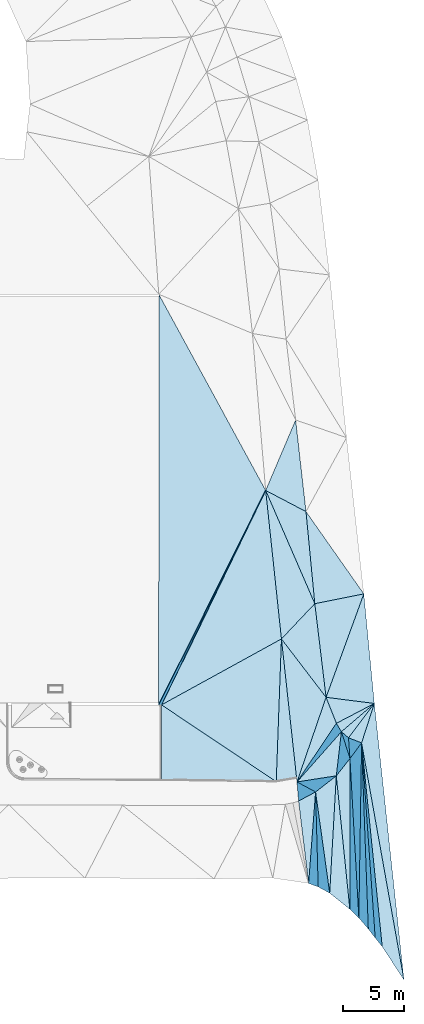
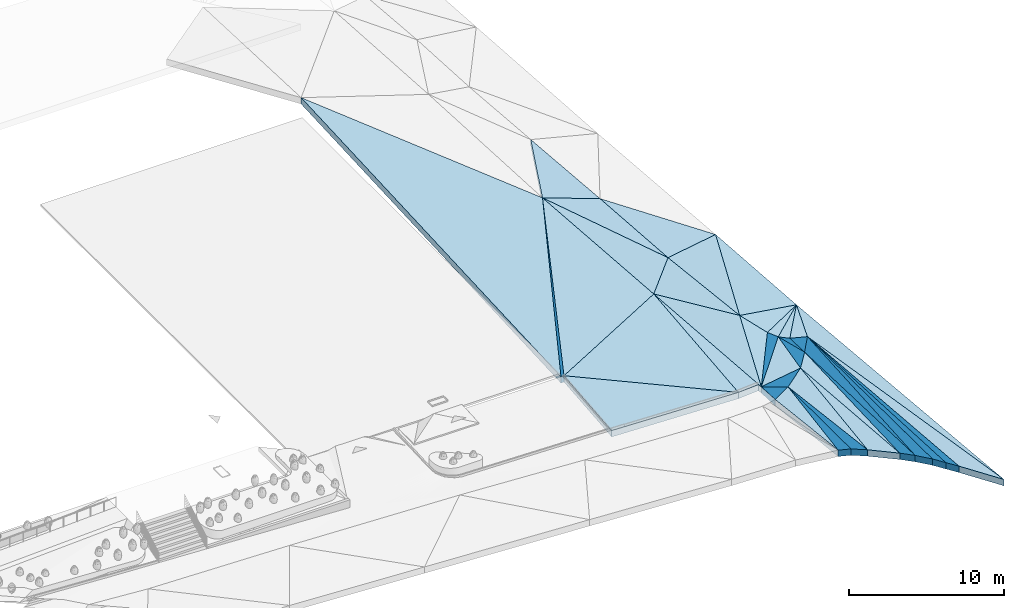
# One storey, part 5 of 23: 39 slabs, 4 elements without a shape of their own.
"""IFC2X3 building model written with IfcOpenShell, lengths in metres."""

from ifc_helpers import new_model, entity, si_unit, converted_unit, direction, frame, origin, place, context, subcontext, project, spatial, polyline, outline, extrude, material, layer, layer_set, type_object, element, aggregate, save


model = new_model("IFC2X3")

# Units and contexts
model_context = context("Model", 3, precision=1e-05, world=origin(), true_north=direction((0.7716245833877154, 0.6360782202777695)))
body_context = subcontext(model_context, "Body", "Model", "MODEL_VIEW")
ifc_project = project(units=[si_unit("LENGTHUNIT", "METRE"), converted_unit("PLANEANGLEUNIT", "DEGREE", entity("IfcPlaneAngleMeasure", 0.017453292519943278), si_unit("PLANEANGLEUNIT", "RADIAN"), dimensions=[0, 0, 0, 0, 0, 0, 0]), si_unit("AREAUNIT", "SQUARE_METRE")], contexts=[model_context])

# Site, building, storey
site_placement = place(None, origin())
site = spatial("IfcSite", under=ifc_project, at=site_placement, Name="Default", CompositionType="ELEMENT")
building_placement = place(site_placement, origin())
building = spatial("IfcBuilding", under=site, at=building_placement, Name="<Building Name>", CompositionType="ELEMENT")
storey_placement = place(building_placement, origin())
storey = spatial("IfcBuildingStorey", under=building, at=storey_placement, Name="00 - HAV", CompositionType="ELEMENT", Elevation=0.0)

# Slabs
slab_1_placement = place(storey_placement, frame((227.93461709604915, 49.93152636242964, 29.770000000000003)))
slab_1 = element("IfcSlab", 1, at=slab_1_placement, inside=storey, Name="Floor:771 Grøntarealer", ObjectType="Floor:771 Grøntarealer", PredefinedType="NOTDEFINED")
ifc_material_1 = material(Name="815 - Terrain, Grøntareal")
ifc_layer_1 = layer(ifc_material_1, 0.02)
ifc_material_2 = material(Name="Site - Soil - Jordlag")
ifc_layer_2 = layer(ifc_material_2, 0.30000000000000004)
ifc_layer_set_1 = layer_set([ifc_layer_1, ifc_layer_2], Name="Floor:771 Grøntarealer")
slab_type_1 = type_object("IfcSlabType", Name="Floor:771 Grøntarealer", PredefinedType="NOTDEFINED")
slab_2_placement = place(slab_1_placement, origin())
slab_2 = element("IfcSlab", 2, at=slab_2_placement, type_object=slab_type_1, material=ifc_layer_set_1, Name="Floor:771 Grøntarealer", ObjectType="Floor:771 Grøntarealer", PredefinedType="NOTDEFINED", context=body_context, shape_type="SweptSolid", body=[
    extrude(outline(polyline([(-2.3785105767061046, 3.5640144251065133), (-1.65907824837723, -3.950565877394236), (2.339792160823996, -3.1595946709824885), (-2.3785105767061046, 3.5640144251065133)])), frame((64.42983927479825, 15.30548511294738, 1.1208509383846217), z_axis=(0.023530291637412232, -0.04298280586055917, 0.9987986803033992), x_axis=(0.9997231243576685, 0.0010116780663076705, -0.023508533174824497)), (0.023508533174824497, -0.042994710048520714, -0.9987986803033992), 0.3200000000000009),
])
slab_3_placement = place(slab_1_placement, origin())
slab_3 = element("IfcSlab", 3, at=slab_3_placement, type_object=slab_type_1, material=ifc_layer_set_1, Name="Floor:771 Grøntarealer", ObjectType="Floor:771 Grøntarealer", PredefinedType="NOTDEFINED", context=body_context, shape_type="SweptSolid", body=[
    extrude(outline(polyline([(-2.4591744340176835, 3.425550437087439), (-1.539434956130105, -4.217840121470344), (1.539434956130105, 4.217840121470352), (-2.4591744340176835, 3.425550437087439)])), frame((65.22987441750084, 7.93411059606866, 0.8433381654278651), z_axis=(0.020571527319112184, -0.028045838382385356, 0.9993949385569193), x_axis=(0.9997883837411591, 0.0005770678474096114, -0.02056343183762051)), (0.02056343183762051, -0.02805177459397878, -0.9993949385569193), 0.3200000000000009),
])
slab_4_placement = place(slab_1_placement, origin())
slab_4 = element("IfcSlab", 4, at=slab_4_placement, type_object=slab_type_1, material=ifc_layer_set_1, Name="Floor:771 Grøntarealer", ObjectType="Floor:771 Grøntarealer", PredefinedType="NOTDEFINED", context=body_context, shape_type="SweptSolid", body=[
    extrude(outline(polyline([(-2.038941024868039, 0.440071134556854), (-1.19808286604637, -1.7074954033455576), (1.9014505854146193, -0.08891813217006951), (-2.038941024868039, 0.440071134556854)])), frame((65.72799522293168, 3.293814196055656, 0.6099952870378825), z_axis=(0.04095912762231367, -0.14543903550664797, 0.9885190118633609), x_axis=(0.9991608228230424, 0.005962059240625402, -0.04052288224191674)), (0.04052288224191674, -0.1455611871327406, -0.9885190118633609), 0.3200000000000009),
])
slab_5_placement = place(slab_1_placement, origin())
slab_5 = element("IfcSlab", 5, at=slab_5_placement, type_object=slab_type_1, material=ifc_layer_set_1, Name="Floor:771 Grøntarealer", ObjectType="Floor:771 Grøntarealer", PredefinedType="NOTDEFINED", context=body_context, shape_type="SweptSolid", body=[
    extrude(outline(polyline([(-2.532293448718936, -4.089188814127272), (1.4107231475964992, -4.598242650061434), (0.550562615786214, 4.345035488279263), (-2.532293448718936, -4.089188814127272)])), frame((66.21924922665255, 7.808497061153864, 0.7838622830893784), z_axis=(0.05483096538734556, -0.040514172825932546, 0.9976733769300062), x_axis=(0.9984956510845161, 0.002224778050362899, -0.05478581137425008)), (0.05478581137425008, -0.0405752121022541, -0.9976733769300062), 0.3200000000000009),
])
slab_6_placement = place(slab_1_placement, origin())
slab_6 = element("IfcSlab", 6, at=slab_6_placement, type_object=slab_type_1, material=ifc_layer_set_1, Name="Floor:771 Grøntarealer", ObjectType="Floor:771 Grøntarealer", PredefinedType="NOTDEFINED", context=body_context, shape_type="SweptSolid", body=[
    extrude(outline(polyline([(-1.705570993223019, -0.5475200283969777), (-1.2956265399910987, -1.2369731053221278), (1.3916455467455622, 1.075486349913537), (-1.705570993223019, -0.5475200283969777)])), frame((66.23633228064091, 2.144643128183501, 0.43819785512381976), z_axis=(0.01354534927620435, -0.09350248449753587, 0.9955269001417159), x_axis=(0.9999082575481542, 0.0012666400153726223, -0.013485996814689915)), (0.013485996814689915, -0.09351106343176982, -0.9955269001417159), 0.3200000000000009),
])
slab_7_placement = place(slab_1_placement, origin())
slab_7 = element("IfcSlab", 7, at=slab_7_placement, type_object=slab_type_1, material=ifc_layer_set_1, Name="Floor:771 Grøntarealer", ObjectType="Floor:771 Grøntarealer", PredefinedType="NOTDEFINED", context=body_context, shape_type="SweptSolid", body=[
    extrude(outline(polyline([(-1.4311817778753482, -1.0809638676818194), (-0.8537363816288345, -1.5773073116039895), (1.2561953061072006, 1.2313735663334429), (-1.4311817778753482, -1.0809638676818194)])), frame((66.37181917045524, 1.9891572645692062, 0.4269696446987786), z_axis=(-0.016174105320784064, -0.059071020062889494, 0.9981227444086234), x_axis=(0.999869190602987, -0.0009555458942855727, 0.016145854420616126)), (-0.016145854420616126, -0.059078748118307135, -0.9981227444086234), 0.3200000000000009),
])
slab_8_placement = place(slab_1_placement, origin())
slab_8 = element("IfcSlab", 8, at=slab_8_placement, type_object=slab_type_1, material=ifc_layer_set_1, Name="Floor:771 Grøntarealer", ObjectType="Floor:771 Grøntarealer", PredefinedType="NOTDEFINED", context=body_context, shape_type="SweptSolid", body=[
    extrude(outline(polyline([(-1.1455949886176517, -1.3690872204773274), (-0.07696781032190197, -1.7834975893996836), (0.9649280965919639, 1.4391492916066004), (-1.1455949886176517, -1.3690872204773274)])), frame((66.66331863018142, 1.7811837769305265, 0.420845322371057), z_axis=(-0.02866712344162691, -0.04968056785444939, 0.9983536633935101), x_axis=(0.9995890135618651, -0.001424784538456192, 0.028631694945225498)), (-0.028631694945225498, -0.049700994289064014, -0.9983536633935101), 0.3200000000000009),
])
aggregate(slab_1, [slab_2, slab_3, slab_4, slab_5, slab_6, slab_7, slab_8])

slab_9_placement = place(storey_placement, frame((272.13534237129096, 46.77280201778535, 29.448733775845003)))
slab_9 = element("IfcSlab", 9, at=slab_9_placement, inside=storey, Name="Floor:761 Asfalt - Kjørearealer", ObjectType="Floor:761 Asfalt - Kjørearealer", PredefinedType="NOTDEFINED")
ifc_material_3 = material(Name="Site - Asphalt - Asfaltbetong")
ifc_layer_3 = layer(ifc_material_3, 0.03)
ifc_material_4 = material(Name="A_Default_Building_Part")
ifc_layer_4 = layer(ifc_material_4, 0.07)
ifc_material_5 = material(Name="Site - Gravel - Stabilitet grus")
ifc_layer_5 = layer(ifc_material_5, 0.2)
ifc_material_6 = material(Name="Site - Gravel - Bunnsikringsgrus")
ifc_layer_6 = layer(ifc_material_6, 0.2)
ifc_layer_set_2 = layer_set([ifc_layer_3, ifc_layer_4, ifc_layer_5, ifc_layer_6], Name="Floor:761 Asfalt - Kjørearealer")
slab_type_2 = type_object("IfcSlabType", Name="Floor:761 Asfalt - Kjørearealer", PredefinedType="NOTDEFINED")
slab_10_placement = place(slab_9_placement, origin())
slab_10 = element("IfcSlab", 10, at=slab_10_placement, type_object=slab_type_2, material=ifc_layer_set_2, Name="Floor:761 Asfalt - Kjørearealer", ObjectType="Floor:761 Asfalt - Kjørearealer", PredefinedType="NOTDEFINED", context=body_context, shape_type="SweptSolid", body=[
    extrude(outline(polyline([(5.541417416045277, -3.3836336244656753), (4.254605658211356, 8.742483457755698), (-4.254605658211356, -8.74248345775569), (5.541417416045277, -3.3836336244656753)])), frame((10.31627251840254, 15.002458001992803, 1.6162662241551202), z_axis=(0.05371837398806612, -0.04948754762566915, 0.9973290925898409), x_axis=(0.998556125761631, 0.0026622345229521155, -0.0536523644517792)), (0.0536523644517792, -0.04955910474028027, -0.9973290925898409), 0.49999999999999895),
])
slab_11_placement = place(slab_9_placement, origin())
slab_11 = element("IfcSlab", 11, at=slab_11_placement, type_object=slab_type_2, material=ifc_layer_set_2, Name="Floor:761 Asfalt - Kjørearealer", ObjectType="Floor:761 Asfalt - Kjørearealer", PredefinedType="NOTDEFINED", context=body_context, shape_type="SweptSolid", body=[
    extrude(outline(polyline([(-0.6138804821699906, 5.855093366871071), (-1.0396966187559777, -5.794652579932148), (0.6262974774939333, -5.5153813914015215), (-0.6138804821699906, 5.855093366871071)])), frame((16.46155184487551, 5.791927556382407, 0.8179055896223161), z_axis=(0.0810062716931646, -0.04829274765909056, 0.9955429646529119), x_axis=(0.9967135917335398, 0.003924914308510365, -0.08091113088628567)), (0.08091113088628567, -0.04845198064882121, -0.9955429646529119), 0.49999999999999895),
])
slab_12_placement = place(slab_9_placement, origin())
slab_12 = element("IfcSlab", 12, at=slab_12_placement, type_object=slab_type_2, material=ifc_layer_set_2, Name="Floor:761 Asfalt - Kjørearealer", ObjectType="Floor:761 Asfalt - Kjørearealer", PredefinedType="NOTDEFINED", context=body_context, shape_type="SweptSolid", body=[
    extrude(outline(polyline([(2.4937809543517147, 7.073185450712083), (-7.301629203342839, 1.7132153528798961), (2.068777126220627, -4.576590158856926), (2.4937809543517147, 7.073185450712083)])), frame((13.359352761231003, 4.566290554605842, 0.9468183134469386), z_axis=(0.05254405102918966, -0.047343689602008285, 0.9974957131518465), x_axis=(0.9986186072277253, 0.0024910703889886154, -0.05248496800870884)), (0.05248496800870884, -0.047409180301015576, -0.9974957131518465), 0.49999999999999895),
])
slab_13_placement = place(slab_9_placement, origin())
slab_13 = element("IfcSlab", 13, at=slab_13_placement, type_object=slab_type_2, material=ifc_layer_set_2, Name="Floor:761 Asfalt - Kjørearealer", ObjectType="Floor:761 Asfalt - Kjørearealer", PredefinedType="NOTDEFINED", context=body_context, shape_type="SweptSolid", body=[
    extrude(outline(polyline([(8.731174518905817, 0.7227002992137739), (0.002450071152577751, 16.762552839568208), (-0.0024500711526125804, -16.762552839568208), (8.731174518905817, 0.7227002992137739)])), frame((5.844953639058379, 23.001874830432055, 2.2312662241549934), z_axis=(0.051069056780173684, -0.04886217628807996, 0.9974990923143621), x_axis=(0.9986951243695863, 0.002498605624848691, -0.05100789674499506)), (0.05100789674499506, -0.048926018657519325, -0.9974990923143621), 0.49999999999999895),
])
slab_14_placement = place(slab_9_placement, origin())
slab_14 = element("IfcSlab", 14, at=slab_14_placement, type_object=slab_type_2, material=ifc_layer_set_2, Name="Floor:761 Asfalt - Kjørearealer", ObjectType="Floor:761 Asfalt - Kjørearealer", PredefinedType="NOTDEFINED", context=body_context, shape_type="SweptSolid", body=[
    extrude(outline(polyline([(4.2708970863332, 8.79045903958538), (-4.45133120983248, -8.700481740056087), (-4.226027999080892, -8.700481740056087), (4.2708970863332, 8.79045903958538)])), frame((10.293837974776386, 14.957481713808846, 1.6152116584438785), z_axis=(0.0, -0.023440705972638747, 0.9997252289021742), x_axis=(1.0, 0.0, 0.0)), (0.0, -0.023440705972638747, -0.9997252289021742), 0.49999999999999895),
])
slab_15_placement = place(slab_9_placement, origin())
slab_15 = element("IfcSlab", 15, at=slab_15_placement, type_object=slab_type_2, material=ifc_layer_set_2, Name="Floor:761 Asfalt - Kjørearealer", ObjectType="Floor:761 Asfalt - Kjørearealer", PredefinedType="NOTDEFINED", context=body_context, shape_type="SweptSolid", body=[
    extrude(outline(polyline([(6.111705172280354, -1.0277648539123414), (-3.2476793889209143, 5.278429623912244), (-3.247679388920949, -0.9019671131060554), (6.111705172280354, -1.0277648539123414)])), frame((9.31482228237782, 1.0112756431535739, 0.8425474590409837), z_axis=(0.020267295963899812, -0.09531120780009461, 0.9952411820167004), x_axis=(0.9997945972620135, 0.0019320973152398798, -0.020174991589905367)), (0.020174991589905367, -0.09533078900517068, -0.9952411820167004), 0.49999999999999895),
])
aggregate(slab_9, [slab_10, slab_11, slab_12, slab_13, slab_14, slab_15])

slab_16_placement = place(storey_placement, frame((215.88810139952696, 30.595880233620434, 28.880000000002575)))
slab_16 = element("IfcSlab", 16, at=slab_16_placement, inside=storey, Name="Floor:761 Asfalt - Kjørearealer", ObjectType="Floor:761 Asfalt - Kjørearealer", PredefinedType="NOTDEFINED")
slab_17_placement = place(slab_16_placement, origin())
slab_17 = element("IfcSlab", 17, at=slab_17_placement, type_object=slab_type_2, material=ifc_layer_set_2, Name="Floor:761 Asfalt - Kjørearealer", ObjectType="Floor:761 Asfalt - Kjørearealer", PredefinedType="NOTDEFINED", context=body_context, shape_type="SweptSolid", body=[
    extrude(outline(polyline([(0.1118790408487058, 7.142153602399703), (-0.8364122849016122, 5.865892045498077), (-0.1118790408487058, -7.142153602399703), (0.1118790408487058, 7.142153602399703)])), frame((78.52121957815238, 12.200004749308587, 0.9149999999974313), z_axis=(-0.05983710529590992, -0.04169285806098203, 0.9973370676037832), x_axis=(0.99820815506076, -0.0024992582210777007, 0.05978488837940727)), (-0.05978488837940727, -0.0417676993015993, -0.9973370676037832), 0.49999999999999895),
])
slab_18_placement = place(slab_16_placement, origin())
slab_18 = element("IfcSlab", 18, at=slab_18_placement, type_object=slab_type_2, material=ifc_layer_set_2, Name="Floor:761 Asfalt - Kjørearealer", ObjectType="Floor:761 Asfalt - Kjørearealer", PredefinedType="NOTDEFINED", context=body_context, shape_type="SweptSolid", body=[
    extrude(outline(polyline([(-0.27483578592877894, 7.594512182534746), (-0.49846271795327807, -6.6897970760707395), (0.2748357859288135, -7.594512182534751), (-0.27483578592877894, 7.594512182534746)])), frame((78.90740236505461, 11.747248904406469, 0.914999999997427), z_axis=(-0.0491060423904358, -0.04188550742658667, 0.9979149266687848), x_axis=(0.9987935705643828, -0.002059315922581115, 0.04906284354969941)), (-0.04906284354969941, -0.04193610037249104, -0.9979149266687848), 0.49999999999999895),
])
slab_19_placement = place(slab_16_placement, origin())
slab_19 = element("IfcSlab", 19, at=slab_19_placement, type_object=slab_type_2, material=ifc_layer_set_2, Name="Floor:761 Asfalt - Kjørearealer", ObjectType="Floor:761 Asfalt - Kjørearealer", PredefinedType="NOTDEFINED", context=body_context, shape_type="SweptSolid", body=[
    extrude(outline(polyline([(-0.5556364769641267, 7.959515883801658), (-0.006518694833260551, -7.229528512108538), (0.5556364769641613, -7.959515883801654), (-0.5556364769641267, 7.959515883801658)])), frame((79.18842397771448, 11.38276042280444, 0.8949999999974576), z_axis=(0.019955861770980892, -0.03943178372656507, 0.9990229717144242), x_axis=(0.9998008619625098, 0.0007870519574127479, -0.019940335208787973)), (0.019940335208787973, -0.03943963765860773, -0.9990229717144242), 0.49999999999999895),
])
slab_20_placement = place(slab_16_placement, origin())
slab_20 = element("IfcSlab", 20, at=slab_20_placement, type_object=slab_type_2, material=ifc_layer_set_2, Name="Floor:761 Asfalt - Kjørearealer", ObjectType="Floor:761 Asfalt - Kjørearealer", PredefinedType="NOTDEFINED", context=body_context, shape_type="SweptSolid", body=[
    extrude(outline(polyline([(-0.8417665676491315, 8.31445602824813), (0.27018767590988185, -7.60452816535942), (0.8417665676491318, -8.31445602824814), (-0.8417665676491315, 8.31445602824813)])), frame((79.4739814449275, 11.028490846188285, 0.8699999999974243), z_axis=(0.040283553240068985, -0.03798908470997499, 0.9984658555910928), x_axis=(0.9991882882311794, 0.0015315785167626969, -0.04025442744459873)), (0.04025442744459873, -0.03801994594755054, -0.9984658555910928), 0.49999999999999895),
])
slab_21_placement = place(slab_16_placement, origin())
slab_21 = element("IfcSlab", 21, at=slab_21_placement, type_object=slab_type_2, material=ifc_layer_set_2, Name="Floor:761 Asfalt - Kjørearealer", ObjectType="Floor:761 Asfalt - Kjørearealer", PredefinedType="NOTDEFINED", context=body_context, shape_type="SweptSolid", body=[
    extrude(outline(polyline([(-1.7328836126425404, 9.673910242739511), (-0.0473842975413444, -6.954802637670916), (1.732883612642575, -9.673910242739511), (-1.7328836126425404, 9.673910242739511)])), frame((80.36235534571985, 9.667823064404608, 0.859999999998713), z_axis=(-0.0628543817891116, -0.04836352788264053, 0.9968501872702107), x_axis=(0.9980227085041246, -0.003045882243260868, 0.06278053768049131)), (-0.06278053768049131, -0.048459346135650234, -0.9968501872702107), 0.49999999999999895),
])
slab_22_placement = place(slab_16_placement, origin())
slab_22 = element("IfcSlab", 22, at=slab_22_placement, type_object=slab_type_2, material=ifc_layer_set_2, Name="Floor:761 Asfalt - Kjørearealer", ObjectType="Floor:761 Asfalt - Kjørearealer", PredefinedType="NOTDEFINED", context=body_context, shape_type="SweptSolid", body=[
    extrude(outline(polyline([(-2.2523064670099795, 8.062998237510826), (1.2098596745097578, -11.285466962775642), (-1.2098596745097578, 11.28546696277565), (-2.2523064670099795, 8.062998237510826)])), frame((80.88308919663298, 11.27641289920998, 0.954999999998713), z_axis=(-0.043330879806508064, -0.04491570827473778, 0.9980506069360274), x_axis=(0.9990607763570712, -0.0019480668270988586, 0.04328706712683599)), (-0.04328706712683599, -0.04495793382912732, -0.9980506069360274), 0.49999999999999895),
])
slab_23_placement = place(slab_16_placement, origin())
slab_23 = element("IfcSlab", 23, at=slab_23_placement, type_object=slab_type_2, material=ifc_layer_set_2, Name="Floor:761 Asfalt - Kjørearealer", ObjectType="Floor:761 Asfalt - Kjørearealer", PredefinedType="NOTDEFINED", context=body_context, shape_type="SweptSolid", body=[
    extrude(outline(polyline([(0.005904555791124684, 6.152626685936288), (-1.1114054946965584, 4.740635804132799), (-0.005904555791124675, -6.152626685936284), (0.005904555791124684, 6.152626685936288)])), frame((77.68040653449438, 11.915121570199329, 0.864999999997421), z_axis=(0.04145578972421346, -0.03982587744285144, 0.9983462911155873), x_axis=(0.9991403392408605, 0.0016524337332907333, -0.0414228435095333)), (0.0414228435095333, -0.03986014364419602, -0.9983462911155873), 0.49999999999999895),
])
slab_24_placement = place(slab_16_placement, origin())
slab_24 = element("IfcSlab", 24, at=slab_24_placement, type_object=slab_type_2, material=ifc_layer_set_2, Name="Floor:761 Asfalt - Kjørearealer", ObjectType="Floor:761 Asfalt - Kjørearealer", PredefinedType="NOTDEFINED", context=body_context, shape_type="SweptSolid", body=[
    extrude(outline(polyline([(-0.3617257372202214, 6.504052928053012), (-0.37352822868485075, -5.801200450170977), (0.3617257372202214, -6.504052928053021), (-0.3617257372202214, 6.504052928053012)])), frame((78.0479235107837, 11.563615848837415, 0.8599999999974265), z_axis=(-0.0244617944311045, -0.03978503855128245, 0.9989087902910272), x_axis=(0.999700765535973, -0.0009735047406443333, 0.024442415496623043)), (-0.024442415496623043, -0.03979694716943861, -0.9989087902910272), 0.49999999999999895),
])
slab_25_placement = place(slab_16_placement, origin())
slab_25 = element("IfcSlab", 25, at=slab_25_placement, type_object=slab_type_2, material=ifc_layer_set_2, Name="Floor:761 Asfalt - Kjørearealer", ObjectType="Floor:761 Asfalt - Kjørearealer", PredefinedType="NOTDEFINED", context=body_context, shape_type="SweptSolid", body=[
    extrude(outline(polyline([(0.26882934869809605, 4.7884267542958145), (-1.4208934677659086, 3.4708013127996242), (-0.26882934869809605, -4.7884267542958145), (0.26882934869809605, 4.7884267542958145)])), frame((76.30117191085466, 11.8667805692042, 0.8799999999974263), z_axis=(-0.0182532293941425, -0.044912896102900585, 0.9988241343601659), x_axis=(0.9998333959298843, -0.0008199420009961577, 0.018234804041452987)), (-0.018234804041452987, -0.04492038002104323, -0.9988241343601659), 0.49999999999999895),
])
slab_26_placement = place(slab_16_placement, origin())
slab_26 = element("IfcSlab", 26, at=slab_26_placement, type_object=slab_type_2, material=ifc_layer_set_2, Name="Floor:761 Asfalt - Kjørearealer", ObjectType="Floor:761 Asfalt - Kjørearealer", PredefinedType="NOTDEFINED", context=body_context, shape_type="SweptSolid", body=[
    extrude(outline(polyline([(-0.5523147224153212, 5.446675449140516), (-1.0899222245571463, -4.130180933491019), (0.5523147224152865, -5.446675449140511), (-0.5523147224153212, 5.446675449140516)])), frame((77.12223176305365, 11.208764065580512, 0.8599999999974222), z_axis=(-0.011949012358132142, -0.04527077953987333, 0.9989032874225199), x_axis=(0.999928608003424, -0.0005409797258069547, 0.011936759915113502)), (-0.011936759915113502, -0.0452740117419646, -0.9989032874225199), 0.49999999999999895),
])
slab_27_placement = place(slab_16_placement, origin())
slab_27 = element("IfcSlab", 27, at=slab_27_placement, type_object=slab_type_2, material=ifc_layer_set_2, Name="Floor:761 Asfalt - Kjørearealer", ObjectType="Floor:761 Asfalt - Kjørearealer", PredefinedType="NOTDEFINED", context=body_context, shape_type="SweptSolid", body=[
    extrude(outline(polyline([(0.2843238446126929, 3.729233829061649), (-1.1013912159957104, 2.987618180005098), (-0.2843238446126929, -3.7292338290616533), (0.2843238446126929, 3.729233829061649)])), frame((74.59623830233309, 11.608272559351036, 0.8799999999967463), z_axis=(-0.01817749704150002, -0.033469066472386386, 0.9992744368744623), x_axis=(0.9998347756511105, -0.0006084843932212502, 0.018167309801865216)), (-0.018167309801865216, -0.03347459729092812, -0.9992744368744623), 0.49999999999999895),
])
slab_28_placement = place(slab_16_placement, origin())
slab_28 = element("IfcSlab", 28, at=slab_28_placement, type_object=slab_type_2, material=ifc_layer_set_2, Name="Floor:761 Asfalt - Kjørearealer", ObjectType="Floor:761 Asfalt - Kjørearealer", PredefinedType="NOTDEFINED", context=body_context, shape_type="SweptSolid", body=[
    extrude(outline(polyline([(-0.10676080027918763, 3.8733612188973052), (-0.6753589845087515, -3.585110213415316), (0.10676080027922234, -3.873361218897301), (-0.10676080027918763, 3.8733612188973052)])), frame((74.9872676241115, 11.46406413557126, 0.879999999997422), z_axis=(-0.0125036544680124, -0.033904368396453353, 0.9993468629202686), x_axis=(0.9999218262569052, -0.00042396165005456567, 0.012496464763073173)), (-0.012496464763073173, -0.03390701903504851, -0.9993468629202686), 0.49999999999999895),
])
slab_29_placement = place(slab_16_placement, origin())
slab_29 = element("IfcSlab", 29, at=slab_29_placement, type_object=slab_type_2, material=ifc_layer_set_2, Name="Floor:761 Asfalt - Kjørearealer", ObjectType="Floor:761 Asfalt - Kjørearealer", PredefinedType="NOTDEFINED", context=body_context, shape_type="SweptSolid", body=[
    extrude(outline(polyline([(-0.5777223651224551, 4.129377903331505), (-0.363555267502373, -3.617326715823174), (0.5777223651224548, -4.129377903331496), (-0.5777223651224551, 4.129377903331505)])), frame((75.45645125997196, 11.209325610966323, 0.8349999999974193), z_axis=(0.07857666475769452, -0.031294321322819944, 0.9964167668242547), x_axis=(0.9969080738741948, 0.002466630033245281, -0.07853793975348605)), (0.07853793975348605, -0.031391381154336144, -0.9964167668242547), 0.49999999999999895),
])
aggregate(slab_16, [slab_17, slab_18, slab_19, slab_20, slab_21, slab_22, slab_23, slab_24, slab_25, slab_26, slab_27, slab_28, slab_29])

slab_30_placement = place(storey_placement, frame((224.56733296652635, 45.19076679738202, 29.34)))
slab_30 = element("IfcSlab", 30, at=slab_30_placement, inside=storey, Name="Floor:761 Asfalt - Gangarealer", ObjectType="Floor:761 Asfalt - Gangarealer", PredefinedType="NOTDEFINED")
ifc_material_7 = material(Name="Site - Aspahlt - Pulverasfalt")
ifc_layer_7 = layer(ifc_material_7, 0.025)
ifc_layer_8 = layer(ifc_material_4, 0.05)
ifc_layer_9 = layer(ifc_material_5, 0.1)
ifc_layer_10 = layer(ifc_material_6, 0.325)
ifc_layer_set_3 = layer_set([ifc_layer_7, ifc_layer_8, ifc_layer_9, ifc_layer_10], Name="Floor:761 Asfalt - Gangarealer")
slab_type_3 = type_object("IfcSlabType", Name="Floor:761 Asfalt - Gangarealer", PredefinedType="NOTDEFINED")
slab_31_placement = place(slab_30_placement, origin())
slab_31 = element("IfcSlab", 31, at=slab_31_placement, type_object=slab_type_3, material=ifc_layer_set_3, Name="Floor:761 Asfalt - Gangarealer", ObjectType="Floor:761 Asfalt - Gangarealer", PredefinedType="NOTDEFINED", context=body_context, shape_type="SweptSolid", body=[
    extrude(outline(polyline([(-2.1387905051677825, 5.904601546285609), (-0.8538367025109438, -6.221712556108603), (1.8669696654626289, -3.3393849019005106), (-2.1387905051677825, 5.904601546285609)])), frame((64.27153490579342, 19.431957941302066, 1.604133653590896), z_axis=(-0.00024701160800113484, -0.055277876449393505, 0.9984709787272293), x_axis=(0.9999999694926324, -1.3654277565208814e-05, 0.00024663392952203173)), (-0.00024663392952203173, -0.05527787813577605, -0.9984709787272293), 0.49999999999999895),
])
slab_32_placement = place(slab_30_placement, origin())
slab_32 = element("IfcSlab", 32, at=slab_32_placement, type_object=slab_type_3, material=ifc_layer_set_3, Name="Floor:761 Asfalt - Gangarealer", ObjectType="Floor:761 Asfalt - Gangarealer", PredefinedType="NOTDEFINED", context=body_context, shape_type="SweptSolid", body=[
    extrude(outline(polyline([(-3.0721507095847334, 4.158400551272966), (0.935344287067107, -5.084833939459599), (0.2157996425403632, 2.429735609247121), (-3.0721507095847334, 4.158400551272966)])), frame((65.20356516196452, 21.176740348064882, 1.6632481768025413), z_axis=(0.02942217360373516, -0.04241233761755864, 0.9986668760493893), x_axis=(0.9995670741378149, 0.0012484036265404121, -0.02939567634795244)), (0.02939567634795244, -0.04243070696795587, -0.9986668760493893), 0.49999999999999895),
])
slab_33_placement = place(slab_30_placement, origin())
slab_33 = element("IfcSlab", 33, at=slab_33_placement, type_object=slab_type_3, material=ifc_layer_set_3, Name="Floor:761 Asfalt - Gangarealer", ObjectType="Floor:761 Asfalt - Gangarealer", PredefinedType="NOTDEFINED", context=body_context, shape_type="SweptSolid", body=[
    extrude(outline(polyline([(-2.865560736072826, -2.010668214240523), (0.4219411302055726, -3.7401859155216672), (-0.4219411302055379, 3.7401859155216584), (-2.865560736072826, -2.010668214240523)])), frame((64.99745538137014, 27.339134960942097, 1.9649999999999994), z_axis=(0.02435239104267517, -0.052051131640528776, 0.998347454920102), x_axis=(0.9997034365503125, 0.0012679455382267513, -0.024319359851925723)), (0.024319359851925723, -0.05206657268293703, -0.998347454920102), 0.49999999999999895),
])
slab_34_placement = place(slab_30_placement, origin())
slab_34 = element("IfcSlab", 34, at=slab_34_placement, type_object=slab_type_3, material=ifc_layer_set_3, Name="Floor:761 Asfalt - Gangarealer", ObjectType="Floor:761 Asfalt - Gangarealer", PredefinedType="NOTDEFINED", context=body_context, shape_type="SweptSolid", body=[
    extrude(outline(polyline([(-3.181456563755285, 0.9400730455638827), (0.45989932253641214, -3.8216917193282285), (-0.45989932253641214, 3.8216917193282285), (-3.181456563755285, 0.9400730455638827)])), frame((66.5982769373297, 12.277727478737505, 1.3033381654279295), z_axis=(-0.023490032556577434, -0.03334222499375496, 0.9991679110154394), x_axis=(0.9997240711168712, -0.0007834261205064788, 0.023476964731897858)), (-0.023476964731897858, -0.03335142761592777, -0.9991679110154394), 0.49999999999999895),
])
slab_35_placement = place(slab_30_placement, origin())
slab_35 = element("IfcSlab", 35, at=slab_35_placement, type_object=slab_type_3, material=ifc_layer_set_3, Name="Floor:761 Asfalt - Gangarealer", ObjectType="Floor:761 Asfalt - Gangarealer", PredefinedType="NOTDEFINED", context=body_context, shape_type="SweptSolid", body=[
    extrude(outline(polyline([(-2.1826036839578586, 5.671473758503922), (-0.9102976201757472, -6.0083884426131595), (1.4651696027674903, 0.9146232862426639), (-2.1826036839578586, 5.671473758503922)])), frame((65.59586095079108, 7.551063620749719, 1.0347251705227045), z_axis=(-0.06375952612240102, -0.06407655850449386, 0.9959060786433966), x_axis=(0.9979652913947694, -0.004093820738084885, 0.06362796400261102)), (-0.06362796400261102, -0.06420720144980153, -0.9959060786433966), 0.49999999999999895),
])
slab_36_placement = place(slab_30_placement, origin())
slab_36 = element("IfcSlab", 36, at=slab_36_placement, type_object=slab_type_3, material=ifc_layer_set_3, Name="Floor:761 Asfalt - Gangarealer", ObjectType="Floor:761 Asfalt - Gangarealer", PredefinedType="NOTDEFINED", context=body_context, shape_type="SweptSolid", body=[
    extrude(outline(polyline([(-0.35351499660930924, -1.004433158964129), (1.0319862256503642, -0.2624180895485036), (-0.4818983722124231, 0.5570215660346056), (-0.35351499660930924, -1.004433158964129)])), frame((65.16930863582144, 1.0026056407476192, 0.5605856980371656), z_axis=(-0.004671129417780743, -0.05867646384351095, 0.9982661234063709), x_axis=(0.9999890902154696, -0.0002740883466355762, 0.004663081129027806)), (-0.004663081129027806, -0.05867710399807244, -0.9982661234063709), 0.49999999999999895),
])
slab_37_placement = place(slab_30_placement, origin())
slab_37 = element("IfcSlab", 37, at=slab_37_placement, type_object=slab_type_3, material=ifc_layer_set_3, Name="Floor:761 Asfalt - Gangarealer", ObjectType="Floor:761 Asfalt - Gangarealer", PredefinedType="NOTDEFINED", context=body_context, shape_type="SweptSolid", body=[
    extrude(outline(polyline([(-0.08778810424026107, -1.0686860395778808), (1.6016819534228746, 0.24926347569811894), (-1.6016819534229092, -0.24926347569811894), (-0.08778810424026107, -1.0686860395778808)])), frame((66.2890702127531, 1.8070331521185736, 0.6155114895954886), z_axis=(-0.0058344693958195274, -0.06082154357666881, 0.9981316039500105), x_axis=(0.9999829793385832, -0.00035486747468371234, 0.005823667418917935)), (-0.005823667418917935, -0.06082257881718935, -0.9981316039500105), 0.49999999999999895),
])
slab_38_placement = place(slab_30_placement, origin())
slab_38 = element("IfcSlab", 38, at=slab_38_placement, type_object=slab_type_3, material=ifc_layer_set_3, Name="Floor:761 Asfalt - Gangarealer", ObjectType="Floor:761 Asfalt - Gangarealer", PredefinedType="NOTDEFINED", context=body_context, shape_type="SweptSolid", body=[
    extrude(outline(polyline([(-0.20888541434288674, -1.7996227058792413), (0.9084992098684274, -0.38769083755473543), (0.20888541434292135, 1.7996227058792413), (-0.20888541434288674, -1.7996227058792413)])), frame((68.09941681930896, 3.853737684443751, 0.705), z_axis=(0.04303286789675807, -0.041071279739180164, 0.9982290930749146), x_axis=(0.9990736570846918, 0.0017690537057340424, -0.042996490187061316)), (0.042996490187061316, -0.04110936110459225, -0.9982290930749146), 0.49999999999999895),
])
slab_39_placement = place(slab_30_placement, origin())
slab_39 = element("IfcSlab", 39, at=slab_39_placement, type_object=slab_type_3, material=ifc_layer_set_3, Name="Floor:761 Asfalt - Gangarealer", ObjectType="Floor:761 Asfalt - Gangarealer", PredefinedType="NOTDEFINED", context=body_context, shape_type="SweptSolid", body=[
    extrude(outline(polyline([(1.3930304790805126, -1.550705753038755), (1.8104345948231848, 2.048582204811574), (-1.8104345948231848, -2.048582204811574), (1.3930304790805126, -1.550705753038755)])), frame((66.4977621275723, 3.6055040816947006, 0.6805114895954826), z_axis=(-0.00985895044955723, -0.034973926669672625, 0.9993395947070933), x_axis=(0.9999513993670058, -0.0003448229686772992, 0.00985291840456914)), (-0.00985291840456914, -0.034975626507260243, -0.9993395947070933), 0.49999999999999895),
])
slab_40_placement = place(slab_30_placement, origin())
slab_40 = element("IfcSlab", 40, at=slab_40_placement, type_object=slab_type_3, material=ifc_layer_set_3, Name="Floor:761 Asfalt - Gangarealer", ObjectType="Floor:761 Asfalt - Gangarealer", PredefinedType="NOTDEFINED", context=body_context, shape_type="SweptSolid", body=[
    extrude(outline(polyline([(-0.029736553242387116, -0.9677026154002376), (0.9173792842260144, 0.30943151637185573), (-0.15139967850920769, 0.7234502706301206), (-0.029736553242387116, -0.9677026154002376)])), frame((69.03679455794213, 4.433790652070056, 0.7105187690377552), z_axis=(-0.033250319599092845, -0.06148477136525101, 0.9975540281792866), x_axis=(0.9994470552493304, -0.002045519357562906, 0.03318734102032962)), (-0.03318734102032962, -0.06151878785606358, -0.9975540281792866), 0.49999999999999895),
])
slab_41_placement = place(slab_30_placement, origin())
slab_41 = element("IfcSlab", 41, at=slab_41_placement, type_object=slab_type_3, material=ifc_layer_set_3, Name="Floor:761 Asfalt - Gangarealer", ObjectType="Floor:761 Asfalt - Gangarealer", PredefinedType="NOTDEFINED", context=body_context, shape_type="SweptSolid", body=[
    extrude(outline(polyline([(0.3495350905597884, -1.0937436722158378), (0.22792106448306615, 0.5974127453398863), (-0.3495350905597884, 1.0937436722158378), (0.3495350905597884, -1.0937436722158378)])), frame((68.65759159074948, 4.560095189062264, 0.7099999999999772), z_axis=(-0.017287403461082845, -0.060363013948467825, 0.9980267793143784), x_axis=(0.9998505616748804, -0.0010436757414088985, 0.017255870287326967)), (-0.017255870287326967, -0.06037203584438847, -0.9980267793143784), 0.49999999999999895),
])
slab_42_placement = place(slab_30_placement, origin())
slab_42 = element("IfcSlab", 42, at=slab_42_placement, type_object=slab_type_3, material=ifc_layer_set_3, Name="Floor:761 Asfalt - Gangarealer", ObjectType="Floor:761 Asfalt - Gangarealer", PredefinedType="NOTDEFINED", context=body_context, shape_type="SweptSolid", body=[
    extrude(outline(polyline([(2.016850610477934, 1.7027843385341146), (1.6066283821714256, 2.3920721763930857), (-1.6066283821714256, -2.3920721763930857), (2.016850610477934, 1.7027843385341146)])), frame((66.29280870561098, 3.9484604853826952, 0.7155114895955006), z_axis=(0.03920504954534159, -0.07823305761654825, 0.9961639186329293), x_axis=(0.9992311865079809, 0.003069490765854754, -0.03908470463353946)), (0.03908470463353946, -0.07829325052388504, -0.9961639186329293), 0.49999999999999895),
])
slab_43_placement = place(slab_30_placement, origin())
slab_43 = element("IfcSlab", 43, at=slab_43_placement, type_object=slab_type_3, material=ifc_layer_set_3, Name="Floor:761 Asfalt - Gangarealer", ObjectType="Floor:761 Asfalt - Gangarealer", PredefinedType="NOTDEFINED", context=body_context, shape_type="SweptSolid", body=[
    extrude(outline(polyline([(2.036304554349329, 1.3140776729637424), (1.1916576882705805, 3.4601569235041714), (-1.1916576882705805, -3.4601569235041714), (2.036304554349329, 1.3140776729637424)])), frame((65.87273244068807, 5.008300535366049, 0.8888496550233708), z_axis=(0.10302240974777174, -0.12064614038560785, 0.9873352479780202), x_axis=(0.9946790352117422, 0.012495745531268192, -0.10226178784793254)), (0.10226178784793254, -0.12129152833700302, -0.9873352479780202), 0.49999999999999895),
])
aggregate(slab_30, [slab_31, slab_32, slab_33, slab_34, slab_35, slab_36, slab_37, slab_38, slab_39, slab_40, slab_41, slab_42, slab_43])

save(model, "model.ifc")
